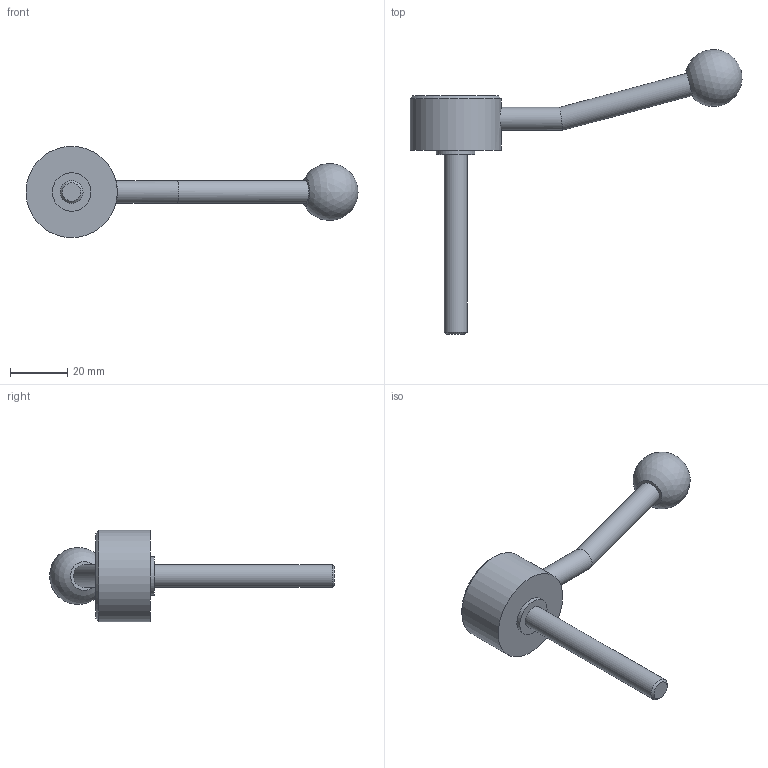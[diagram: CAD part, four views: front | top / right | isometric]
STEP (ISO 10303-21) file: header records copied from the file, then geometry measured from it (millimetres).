
FILE_DESCRIPTION( ( 'STEP AP203' ), '1' );
FILE_NAME( 'C:/Temp/Ganter_Step_05_03_2020/data/2_1/gn_125/gn_125_ms/gn_125_ms_e/Flat Adjustable Lever GN 125-32-M8-63-E.stp', '2020-03-05T11:00:55', ( 'License CC BY-ND 4.0' ), ( 'CADENAS' ), ' ', 'PARTsolutions', ' ' );
FILE_SCHEMA( ( 'CONFIG_CONTROL_DESIGN' ) );
Length unit declared in the file: millimetre
Products named in the file (1): _Flat Adjustable Lever GN 125-32-M8-63-E
Bounding box: 116.33 x 99.72 x 32 mm (x, y, z)
Volume: 26047.7 mm3; surface area: 7965.5 mm2
Topology: 1 solids, 1 shells, 15 faces, 26 edges, 17 vertices
Faces by surface type: cylinder 6, plane 6, cone 2, sphere 1
Full cylindrical faces by diameter (mm): 8 x3, 13.5 x1, 22 x1, 32 x1
Entity records: 404 total; most frequent: CARTESIAN_POINT 110, DIRECTION 58, AXIS2_PLACEMENT_3D 29, EDGE_LOOP 28, ORIENTED_EDGE 28, FACE_OUTER_BOUND 21, ADVANCED_FACE 15, VERTEX_POINT 15
